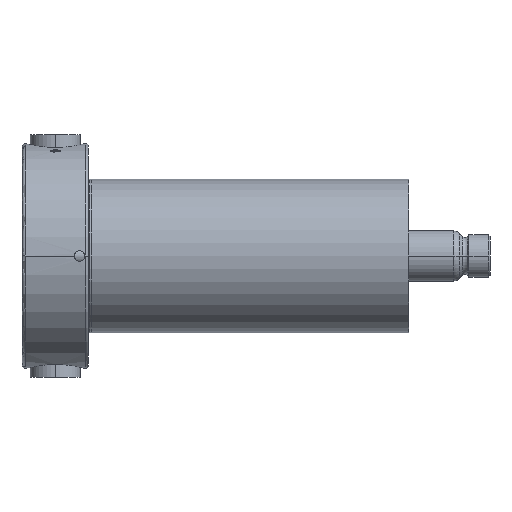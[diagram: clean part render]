
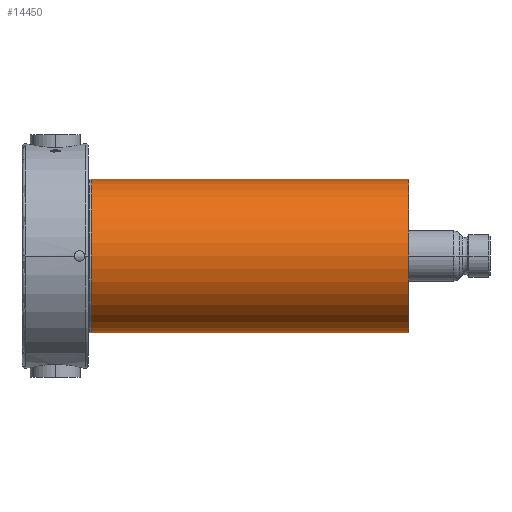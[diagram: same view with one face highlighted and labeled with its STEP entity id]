
A CAD part, front view. The second image highlights one B-rep face of the part: STEP entity #14450.
In plain terms, the highlighted cylindrical face has radius 29 mm (diameter 58 mm), a partial arc.
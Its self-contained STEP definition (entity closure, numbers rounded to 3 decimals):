
#13756=CARTESIAN_POINT('',(0.,0.,0.));
#13757=DIRECTION('',(0.,1.,0.));
#13758=DIRECTION('',(-1.,0.,0.));
#13759=AXIS2_PLACEMENT_3D('',#13756,#13757,#13758);
#13771=DIRECTION('',(0.,1.,0.));
#13772=VECTOR('',#13771,120.);
#13773=CARTESIAN_POINT('',(29.,0.,0.));
#13774=LINE('',#13773,#13772);
#13775=DIRECTION('',(0.,1.,0.));
#13776=VECTOR('',#13775,120.);
#13777=CARTESIAN_POINT('',(-29.,0.,0.));
#13778=LINE('',#13777,#13776);
#13784=CARTESIAN_POINT('',(0.,120.,0.));
#13785=DIRECTION('',(0.,1.,0.));
#13786=DIRECTION('',(-1.,0.,0.));
#13787=AXIS2_PLACEMENT_3D('',#13784,#13785,#13786);
#14263=CARTESIAN_POINT('',(29.,0.,0.));
#14264=CARTESIAN_POINT('',(-29.,0.,0.));
#14265=VERTEX_POINT('',#14263);
#14266=VERTEX_POINT('',#14264);
#14267=CARTESIAN_POINT('',(29.,120.,0.));
#14268=CARTESIAN_POINT('',(-29.,120.,0.));
#14269=VERTEX_POINT('',#14267);
#14270=VERTEX_POINT('',#14268);
#14438=CARTESIAN_POINT('',(0.,0.,0.));
#14439=DIRECTION('',(0.,1.,0.));
#14440=DIRECTION('',(1.,0.,0.));
#14441=AXIS2_PLACEMENT_3D('',#14438,#14439,#14440);
#14442=CYLINDRICAL_SURFACE('',#14441,29.);
#14443=ORIENTED_EDGE('',*,*,#14412,.F.);
#14444=ORIENTED_EDGE('',*,*,#14433,.T.);
#14446=ORIENTED_EDGE('',*,*,#14445,.T.);
#14447=ORIENTED_EDGE('',*,*,#14429,.F.);
#14448=EDGE_LOOP('',(#14443,#14444,#14446,#14447));
#14449=FACE_OUTER_BOUND('',#14448,.F.);
#14450=ADVANCED_FACE('',(#14449),#14442,.T.);
#13760=CIRCLE('',#13759,29.);
#13788=CIRCLE('',#13787,29.);
#14412=EDGE_CURVE('',#14266,#14265,#13760,.T.);
#14429=EDGE_CURVE('',#14265,#14269,#13774,.T.);
#14433=EDGE_CURVE('',#14266,#14270,#13778,.T.);
#14445=EDGE_CURVE('',#14270,#14269,#13788,.T.);
